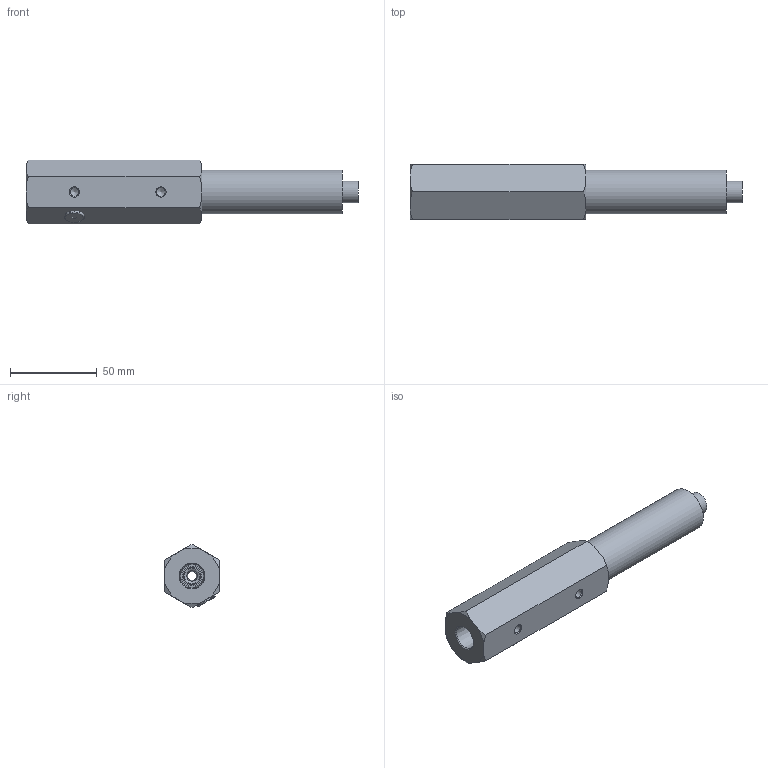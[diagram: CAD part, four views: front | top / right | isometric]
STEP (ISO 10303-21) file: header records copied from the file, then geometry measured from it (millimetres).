
FILE_DESCRIPTION (( 'STEP AP214' ), '1' );
FILE_NAME ('SSV4-G-UPDATED.STEP', '2025-09-15T17:59:56', ( '' ), ( '' ), 'SwSTEP 2.0', 'SolidWorks 2025', '' );
FILE_SCHEMA (( 'AUTOMOTIVE_DESIGN' ));
Length unit declared in the file: inch
Products named in the file (4): SSV4-G-UPDATED; SSV4-G.STEP; 1013.STEP; GS-ST38
Assembly tree (3 placements, depth 3):
  SSV4-G-UPDATED
    SSV4-G.STEP
      1013.STEP
    GS-ST38
Bounding box: 191.8 x 31.75 x 36.66 mm (x, y, z)
Volume: 109920.1 mm3; surface area: 28676 mm2
Topology: 2 solids, 2 shells, 90 faces, 206 edges, 130 vertices
Faces by surface type: plane 43, cone 26, cylinder 19, torus 2
Full cylindrical faces by diameter (mm): 4.978 x1, 5 x2, 8.8 x1, 10.058 x1, 11 x2, 11.125 x1, 11.43 x1, 12.7 x2, 14.275 x1, 14.3 x5, 15 x1, 25.4 x1
Entity records: 2709 total; most frequent: CARTESIAN_POINT 791, DIRECTION 395, ORIENTED_EDGE 288, AXIS2_PLACEMENT_3D 160, EDGE_LOOP 154, EDGE_CURVE 144, VERTEX_POINT 116, FACE_OUTER_BOUND 111
